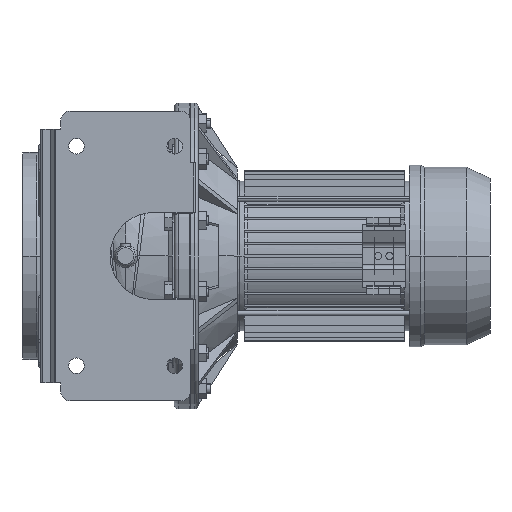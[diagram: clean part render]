
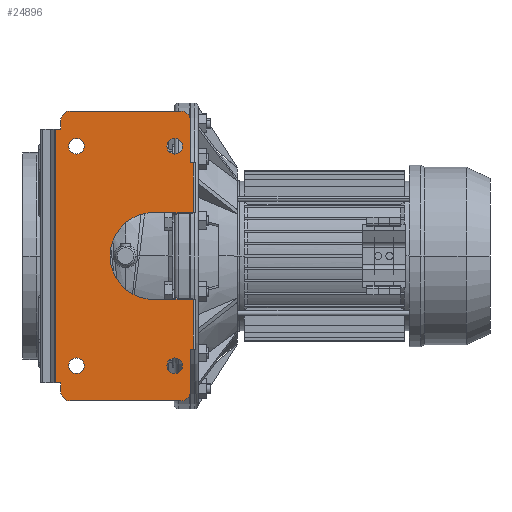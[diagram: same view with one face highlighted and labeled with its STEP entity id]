
A CAD part, front view. The second image highlights one B-rep face of the part: STEP entity #24896.
In plain terms, the highlighted planar face has unit normal (0, -1, 0).
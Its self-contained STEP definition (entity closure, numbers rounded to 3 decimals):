
#20964=CARTESIAN_POINT('',(47.5,-160.,-106.));
#20965=DIRECTION('',(0.,-1.,0.));
#20966=DIRECTION('',(1.,0.,0.));
#20967=AXIS2_PLACEMENT_3D('',#20964,#20965,#20966);
#20972=CARTESIAN_POINT('',(47.5,-160.,-106.));
#20973=DIRECTION('',(0.,-1.,0.));
#20974=DIRECTION('',(-1.,0.,0.));
#20975=AXIS2_PLACEMENT_3D('',#20972,#20973,#20974);
#20980=CARTESIAN_POINT('',(-47.5,-160.,-106.));
#20981=DIRECTION('',(0.,-1.,0.));
#20982=DIRECTION('',(1.,0.,0.));
#20983=AXIS2_PLACEMENT_3D('',#20980,#20981,#20982);
#20988=CARTESIAN_POINT('',(-47.5,-160.,-106.));
#20989=DIRECTION('',(0.,-1.,0.));
#20990=DIRECTION('',(-1.,0.,0.));
#20991=AXIS2_PLACEMENT_3D('',#20988,#20989,#20990);
#20996=CARTESIAN_POINT('',(47.5,-160.,106.));
#20997=DIRECTION('',(0.,-1.,0.));
#20998=DIRECTION('',(1.,0.,0.));
#20999=AXIS2_PLACEMENT_3D('',#20996,#20997,#20998);
#21004=CARTESIAN_POINT('',(47.5,-160.,106.));
#21005=DIRECTION('',(0.,-1.,0.));
#21006=DIRECTION('',(-1.,0.,0.));
#21007=AXIS2_PLACEMENT_3D('',#21004,#21005,#21006);
#21012=CARTESIAN_POINT('',(-47.5,-160.,106.));
#21013=DIRECTION('',(0.,-1.,0.));
#21014=DIRECTION('',(1.,0.,0.));
#21015=AXIS2_PLACEMENT_3D('',#21012,#21013,#21014);
#21020=CARTESIAN_POINT('',(-47.5,-160.,106.));
#21021=DIRECTION('',(0.,-1.,0.));
#21022=DIRECTION('',(-1.,0.,0.));
#21023=AXIS2_PLACEMENT_3D('',#21020,#21021,#21022);
#21028=DIRECTION('',(0.,0.,1.));
#21029=VECTOR('',#21028,48.);
#21030=CARTESIAN_POINT('',(65.5,-160.,-90.));
#21031=LINE('',#21030,#21029);
#21035=DIRECTION('',(0.,0.,-1.));
#21036=VECTOR('',#21035,41.);
#21037=CARTESIAN_POINT('',(62.5,-160.,-90.));
#21038=LINE('',#21037,#21036);
#21042=CARTESIAN_POINT('',(53.5,-160.,-131.));
#21043=DIRECTION('',(0.,-1.,0.));
#21044=DIRECTION('',(0.,0.,-1.));
#21045=AXIS2_PLACEMENT_3D('',#21042,#21043,#21044);
#21050=DIRECTION('',(-1.,0.,0.));
#21051=VECTOR('',#21050,107.);
#21052=CARTESIAN_POINT('',(53.5,-160.,-140.));
#21053=LINE('',#21052,#21051);
#21057=CARTESIAN_POINT('',(-53.5,-160.,-131.));
#21058=DIRECTION('',(0.,-1.,0.));
#21059=DIRECTION('',(-1.,0.,0.));
#21060=AXIS2_PLACEMENT_3D('',#21057,#21058,#21059);
#21065=DIRECTION('',(0.,0.,1.));
#21066=VECTOR('',#21065,8.5);
#21067=CARTESIAN_POINT('',(-62.5,-160.,-131.));
#21068=LINE('',#21067,#21066);
#21072=DIRECTION('',(-1.,0.,0.));
#21073=VECTOR('',#21072,5.172);
#21074=CARTESIAN_POINT('',(-62.5,-160.,-122.5));
#21075=LINE('',#21074,#21073);
#21079=DIRECTION('',(0.,0.,-1.));
#21080=VECTOR('',#21079,245.);
#21081=CARTESIAN_POINT('',(-67.672,-160.,122.5));
#21082=LINE('',#21081,#21080);
#21086=DIRECTION('',(1.,0.,0.));
#21087=VECTOR('',#21086,5.172);
#21088=CARTESIAN_POINT('',(-67.672,-160.,122.5));
#21089=LINE('',#21088,#21087);
#21093=DIRECTION('',(0.,0.,1.));
#21094=VECTOR('',#21093,8.5);
#21095=CARTESIAN_POINT('',(-62.5,-160.,122.5));
#21096=LINE('',#21095,#21094);
#21100=CARTESIAN_POINT('',(-53.5,-160.,131.));
#21101=DIRECTION('',(0.,-1.,0.));
#21102=DIRECTION('',(0.,0.,1.));
#21103=AXIS2_PLACEMENT_3D('',#21100,#21101,#21102);
#21108=DIRECTION('',(1.,0.,0.));
#21109=VECTOR('',#21108,107.);
#21110=CARTESIAN_POINT('',(-53.5,-160.,140.));
#21111=LINE('',#21110,#21109);
#21115=CARTESIAN_POINT('',(53.5,-160.,131.));
#21116=DIRECTION('',(0.,-1.,0.));
#21117=DIRECTION('',(1.,0.,0.));
#21118=AXIS2_PLACEMENT_3D('',#21115,#21116,#21117);
#21123=DIRECTION('',(0.,0.,-1.));
#21124=VECTOR('',#21123,41.);
#21125=CARTESIAN_POINT('',(62.5,-160.,131.));
#21126=LINE('',#21125,#21124);
#21130=DIRECTION('',(0.,0.,1.));
#21131=VECTOR('',#21130,48.);
#21132=CARTESIAN_POINT('',(65.5,-160.,42.));
#21133=LINE('',#21132,#21131);
#21137=CARTESIAN_POINT('',(27.,-160.,0.));
#21138=DIRECTION('',(0.,-1.,0.));
#21139=DIRECTION('',(0.,0.,1.));
#21140=AXIS2_PLACEMENT_3D('',#21137,#21138,#21139);
#21217=DIRECTION('',(1.,0.,0.));
#21218=VECTOR('',#21217,38.5);
#21219=CARTESIAN_POINT('',(27.,-160.,42.));
#21220=LINE('',#21219,#21218);
#21320=DIRECTION('',(-1.,0.,0.));
#21321=VECTOR('',#21320,38.5);
#21322=CARTESIAN_POINT('',(65.5,-160.,-42.));
#21323=LINE('',#21322,#21321);
#22619=DIRECTION('',(1.,0.,0.));
#22620=VECTOR('',#22619,3.);
#22621=CARTESIAN_POINT('',(62.5,-160.,-90.));
#22622=LINE('',#22621,#22620);
#22669=DIRECTION('',(-1.,0.,0.));
#22670=VECTOR('',#22669,3.);
#22671=CARTESIAN_POINT('',(65.5,-160.,90.));
#22672=LINE('',#22671,#22670);
#23743=CARTESIAN_POINT('',(-40.,-160.,106.));
#23744=CARTESIAN_POINT('',(-55.,-160.,106.));
#23745=VERTEX_POINT('',#23743);
#23746=VERTEX_POINT('',#23744);
#23747=CARTESIAN_POINT('',(55.,-160.,106.));
#23748=CARTESIAN_POINT('',(40.,-160.,106.));
#23749=VERTEX_POINT('',#23747);
#23750=VERTEX_POINT('',#23748);
#23751=CARTESIAN_POINT('',(-40.,-160.,-106.));
#23752=CARTESIAN_POINT('',(-55.,-160.,-106.));
#23753=VERTEX_POINT('',#23751);
#23754=VERTEX_POINT('',#23752);
#23755=CARTESIAN_POINT('',(55.,-160.,-106.));
#23756=CARTESIAN_POINT('',(40.,-160.,-106.));
#23757=VERTEX_POINT('',#23755);
#23758=VERTEX_POINT('',#23756);
#23759=CARTESIAN_POINT('',(27.,-160.,42.));
#23760=CARTESIAN_POINT('',(27.,-160.,-42.));
#23761=VERTEX_POINT('',#23759);
#23762=VERTEX_POINT('',#23760);
#23779=CARTESIAN_POINT('',(62.5,-160.,-90.));
#23781=VERTEX_POINT('',#23779);
#23783=CARTESIAN_POINT('',(-62.5,-160.,-122.5));
#23785=VERTEX_POINT('',#23783);
#23787=CARTESIAN_POINT('',(-62.5,-160.,122.5));
#23789=VERTEX_POINT('',#23787);
#23791=CARTESIAN_POINT('',(62.5,-160.,90.));
#23793=VERTEX_POINT('',#23791);
#23800=CARTESIAN_POINT('',(-62.5,-160.,131.));
#23802=VERTEX_POINT('',#23800);
#23805=CARTESIAN_POINT('',(-53.5,-160.,140.));
#23806=VERTEX_POINT('',#23805);
#23808=CARTESIAN_POINT('',(53.5,-160.,140.));
#23810=VERTEX_POINT('',#23808);
#23813=CARTESIAN_POINT('',(62.5,-160.,131.));
#23814=VERTEX_POINT('',#23813);
#23816=CARTESIAN_POINT('',(62.5,-160.,-131.));
#23818=VERTEX_POINT('',#23816);
#23821=CARTESIAN_POINT('',(53.5,-160.,-140.));
#23822=VERTEX_POINT('',#23821);
#23824=CARTESIAN_POINT('',(-53.5,-160.,-140.));
#23826=VERTEX_POINT('',#23824);
#23829=CARTESIAN_POINT('',(-62.5,-160.,-131.));
#23830=VERTEX_POINT('',#23829);
#23939=CARTESIAN_POINT('',(65.5,-160.,42.));
#23941=VERTEX_POINT('',#23939);
#23943=CARTESIAN_POINT('',(65.5,-160.,-42.));
#23945=VERTEX_POINT('',#23943);
#23947=CARTESIAN_POINT('',(65.5,-160.,-90.));
#23948=VERTEX_POINT('',#23947);
#23949=CARTESIAN_POINT('',(65.5,-160.,90.));
#23950=VERTEX_POINT('',#23949);
#23963=CARTESIAN_POINT('',(-67.672,-160.,-122.5));
#23965=VERTEX_POINT('',#23963);
#23969=CARTESIAN_POINT('',(-67.672,-160.,122.5));
#23970=VERTEX_POINT('',#23969);
#24828=CARTESIAN_POINT('',(67.5,-160.,42.));
#24829=DIRECTION('',(0.,1.,0.));
#24830=DIRECTION('',(0.,0.,1.));
#24831=AXIS2_PLACEMENT_3D('',#24828,#24829,#24830);
#24832=PLANE('',#24831);
#24834=ORIENTED_EDGE('',*,*,#24833,.F.);
#24836=ORIENTED_EDGE('',*,*,#24835,.F.);
#24838=ORIENTED_EDGE('',*,*,#24837,.T.);
#24840=ORIENTED_EDGE('',*,*,#24839,.F.);
#24842=ORIENTED_EDGE('',*,*,#24841,.T.);
#24844=ORIENTED_EDGE('',*,*,#24843,.F.);
#24846=ORIENTED_EDGE('',*,*,#24845,.T.);
#24847=ORIENTED_EDGE('',*,*,#24474,.T.);
#24849=ORIENTED_EDGE('',*,*,#24848,.F.);
#24850=ORIENTED_EDGE('',*,*,#24523,.T.);
#24852=ORIENTED_EDGE('',*,*,#24851,.T.);
#24854=ORIENTED_EDGE('',*,*,#24853,.F.);
#24856=ORIENTED_EDGE('',*,*,#24855,.T.);
#24858=ORIENTED_EDGE('',*,*,#24857,.F.);
#24860=ORIENTED_EDGE('',*,*,#24859,.T.);
#24862=ORIENTED_EDGE('',*,*,#24861,.F.);
#24864=ORIENTED_EDGE('',*,*,#24863,.F.);
#24866=ORIENTED_EDGE('',*,*,#24865,.F.);
#24868=ORIENTED_EDGE('',*,*,#24867,.T.);
#24870=ORIENTED_EDGE('',*,*,#24869,.F.);
#24871=EDGE_LOOP('',(#24834,#24836,#24838,#24840,#24842,#24844,#24846,#24847,
#24849,#24850,#24852,#24854,#24856,#24858,#24860,#24862,#24864,#24866,#24868,
#24870));
#24872=FACE_OUTER_BOUND('',#24871,.F.);
#24874=ORIENTED_EDGE('',*,*,#24873,.T.);
#24876=ORIENTED_EDGE('',*,*,#24875,.T.);
#24877=EDGE_LOOP('',(#24874,#24876));
#24878=FACE_BOUND('',#24877,.F.);
#24880=ORIENTED_EDGE('',*,*,#24879,.T.);
#24882=ORIENTED_EDGE('',*,*,#24881,.T.);
#24883=EDGE_LOOP('',(#24880,#24882));
#24884=FACE_BOUND('',#24883,.F.);
#24885=ORIENTED_EDGE('',*,*,#24818,.T.);
#24887=ORIENTED_EDGE('',*,*,#24886,.T.);
#24888=EDGE_LOOP('',(#24885,#24887));
#24889=FACE_BOUND('',#24888,.F.);
#24891=ORIENTED_EDGE('',*,*,#24890,.T.);
#24893=ORIENTED_EDGE('',*,*,#24892,.T.);
#24894=EDGE_LOOP('',(#24891,#24893));
#24895=FACE_BOUND('',#24894,.F.);
#20968=CIRCLE('',#20967,7.5);
#20976=CIRCLE('',#20975,7.5);
#20984=CIRCLE('',#20983,7.5);
#20992=CIRCLE('',#20991,7.5);
#21000=CIRCLE('',#20999,7.5);
#21008=CIRCLE('',#21007,7.5);
#21016=CIRCLE('',#21015,7.5);
#21024=CIRCLE('',#21023,7.5);
#21046=CIRCLE('',#21045,9.);
#21061=CIRCLE('',#21060,9.);
#21104=CIRCLE('',#21103,9.);
#21119=CIRCLE('',#21118,9.);
#21141=CIRCLE('',#21140,42.);
#24474=EDGE_CURVE('',#23785,#23965,#21075,.T.);
#24523=EDGE_CURVE('',#23970,#23789,#21089,.T.);
#24818=EDGE_CURVE('',#23745,#23746,#21016,.T.);
#24833=EDGE_CURVE('',#23948,#23945,#21031,.T.);
#24835=EDGE_CURVE('',#23781,#23948,#22622,.T.);
#24837=EDGE_CURVE('',#23781,#23818,#21038,.T.);
#24839=EDGE_CURVE('',#23822,#23818,#21046,.T.);
#24841=EDGE_CURVE('',#23822,#23826,#21053,.T.);
#24843=EDGE_CURVE('',#23830,#23826,#21061,.T.);
#24845=EDGE_CURVE('',#23830,#23785,#21068,.T.);
#24848=EDGE_CURVE('',#23970,#23965,#21082,.T.);
#24851=EDGE_CURVE('',#23789,#23802,#21096,.T.);
#24853=EDGE_CURVE('',#23806,#23802,#21104,.T.);
#24855=EDGE_CURVE('',#23806,#23810,#21111,.T.);
#24857=EDGE_CURVE('',#23814,#23810,#21119,.T.);
#24859=EDGE_CURVE('',#23814,#23793,#21126,.T.);
#24861=EDGE_CURVE('',#23950,#23793,#22672,.T.);
#24863=EDGE_CURVE('',#23941,#23950,#21133,.T.);
#24865=EDGE_CURVE('',#23761,#23941,#21220,.T.);
#24867=EDGE_CURVE('',#23761,#23762,#21141,.T.);
#24869=EDGE_CURVE('',#23945,#23762,#21323,.T.);
#24873=EDGE_CURVE('',#23753,#23754,#20984,.T.);
#24875=EDGE_CURVE('',#23754,#23753,#20992,.T.);
#24879=EDGE_CURVE('',#23749,#23750,#21000,.T.);
#24881=EDGE_CURVE('',#23750,#23749,#21008,.T.);
#24886=EDGE_CURVE('',#23746,#23745,#21024,.T.);
#24890=EDGE_CURVE('',#23757,#23758,#20968,.T.);
#24892=EDGE_CURVE('',#23758,#23757,#20976,.T.);
#24896=ADVANCED_FACE('',(#24872,#24878,#24884,#24889,#24895),#24832,.F.);
